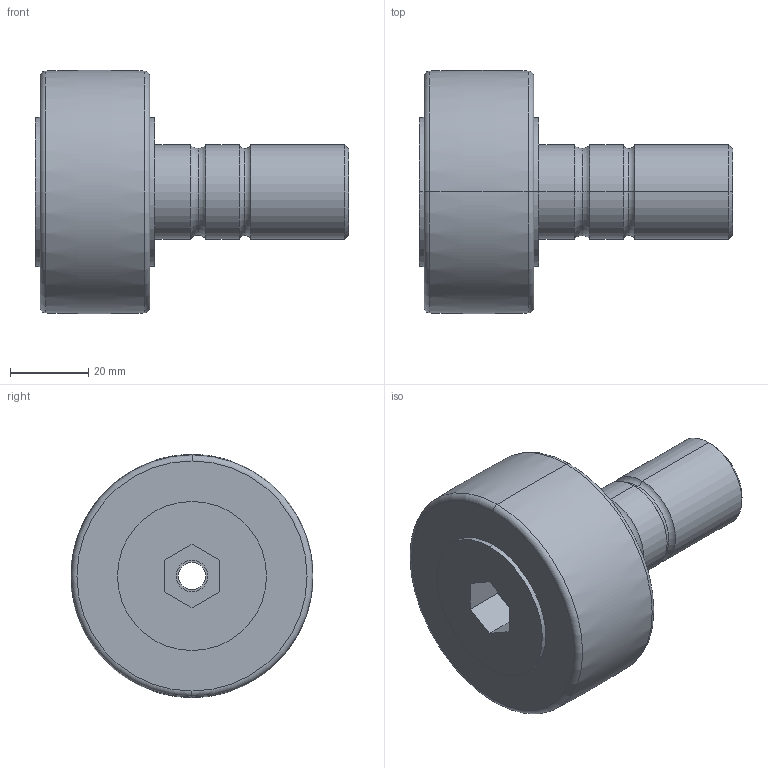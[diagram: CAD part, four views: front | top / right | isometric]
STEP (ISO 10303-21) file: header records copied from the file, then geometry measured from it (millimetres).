
FILE_DESCRIPTION (( 'STEP AP214' ), '1' );
FILE_NAME ('3DNUKR62(03-11-2023).STEP', '2014-03-21T09:13:47', ( 'usuario' ), ( 'Hewlett-Packard Company' ), 'SwSTEP 2.0', 'SolidWorks 2017', '' );
FILE_SCHEMA (( 'AUTOMOTIVE_DESIGN' ));
Length unit declared in the file: millimetre
Products named in the file (1): 3DNUKR62(03-11-2023)
Bounding box: 80 x 61.95 x 61.97 mm (x, y, z)
Volume: 102857.3 mm3; surface area: 17818.8 mm2
Topology: 1 solids, 2 shells, 63 faces, 139 edges, 85 vertices
Faces by surface type: plane 23, cylinder 22, torus 14, cone 4
Entity records: 1895 total; most frequent: CARTESIAN_POINT 412, DIRECTION 331, ORIENTED_EDGE 278, EDGE_CURVE 139, AXIS2_PLACEMENT_3D 134, VERTEX_POINT 85, EDGE_LOOP 74, CIRCLE 70
